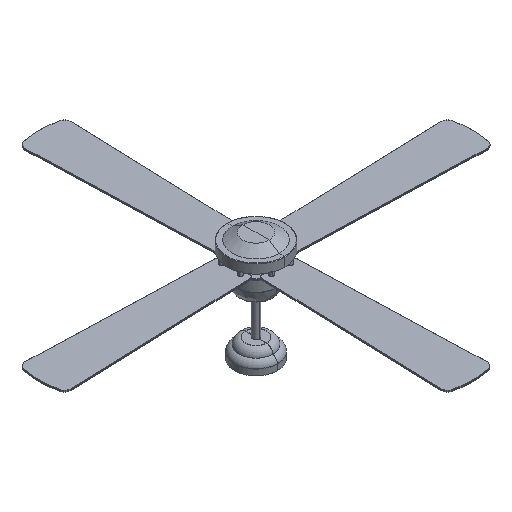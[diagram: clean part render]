
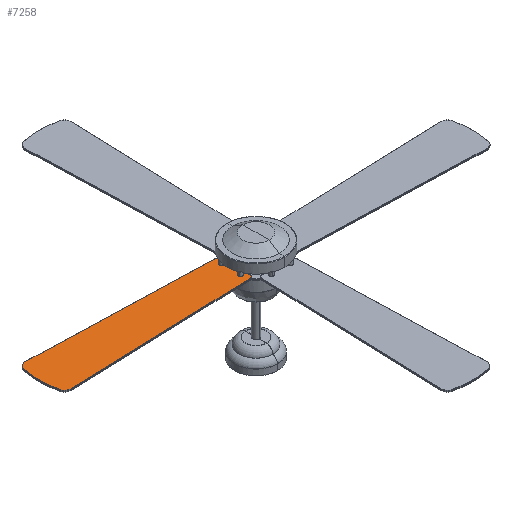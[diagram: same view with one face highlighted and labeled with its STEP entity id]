
A CAD part, isometric view. The second image highlights one B-rep face of the part: STEP entity #7258.
In plain terms, the highlighted planar face has unit normal (0, 0, 1).
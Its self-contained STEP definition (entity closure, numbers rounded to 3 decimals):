
#423=FACE_BOUND('',#1159,.T.);
#424=FACE_BOUND('',#1160,.T.);
#460=PLANE('',#7810);
#670=FACE_OUTER_BOUND('',#1158,.T.);
#1158=EDGE_LOOP('',(#4875,#4876,#4877,#4878,#4879,#4880,#4881,#4882));
#1159=EDGE_LOOP('',(#4883,#4884));
#1160=EDGE_LOOP('',(#4885,#4886));
#1664=CIRCLE('',#7779,3.25);
#1666=CIRCLE('',#7782,3.25);
#1668=CIRCLE('',#7785,3.25);
#1670=CIRCLE('',#7788,3.25);
#1672=CIRCLE('',#7791,10.);
#1674=CIRCLE('',#7795,20.);
#1676=CIRCLE('',#7798,250.);
#1678=CIRCLE('',#7801,20.);
#1680=CIRCLE('',#7805,10.);
#1682=CIRCLE('',#7808,75.);
#2101=LINE('',#11016,#2517);
#2107=LINE('',#11040,#2523);
#2517=VECTOR('',#8784,304.8);
#2523=VECTOR('',#8810,304.8);
#2934=VERTEX_POINT('',#10980);
#2936=VERTEX_POINT('',#10984);
#2938=VERTEX_POINT('',#10992);
#2940=VERTEX_POINT('',#10996);
#2942=VERTEX_POINT('',#11004);
#2944=VERTEX_POINT('',#11008);
#2946=VERTEX_POINT('',#11014);
#2948=VERTEX_POINT('',#11020);
#2950=VERTEX_POINT('',#11026);
#2952=VERTEX_POINT('',#11032);
#2954=VERTEX_POINT('',#11038);
#2956=VERTEX_POINT('',#11044);
#3652=EDGE_CURVE('',#2934,#2936,#1664,.T.);
#3654=EDGE_CURVE('',#2936,#2934,#1666,.T.);
#3658=EDGE_CURVE('',#2938,#2940,#1668,.T.);
#3660=EDGE_CURVE('',#2940,#2938,#1670,.T.);
#3664=EDGE_CURVE('',#2942,#2944,#1672,.T.);
#3667=EDGE_CURVE('',#2944,#2946,#2101,.T.);
#3670=EDGE_CURVE('',#2946,#2948,#1674,.T.);
#3673=EDGE_CURVE('',#2948,#2950,#1676,.T.);
#3676=EDGE_CURVE('',#2950,#2952,#1678,.T.);
#3679=EDGE_CURVE('',#2952,#2954,#2107,.T.);
#3682=EDGE_CURVE('',#2954,#2956,#1680,.T.);
#3684=EDGE_CURVE('',#2956,#2942,#1682,.T.);
#4875=ORIENTED_EDGE('',*,*,#3664,.T.);
#4876=ORIENTED_EDGE('',*,*,#3667,.T.);
#4877=ORIENTED_EDGE('',*,*,#3670,.T.);
#4878=ORIENTED_EDGE('',*,*,#3673,.T.);
#4879=ORIENTED_EDGE('',*,*,#3676,.T.);
#4880=ORIENTED_EDGE('',*,*,#3679,.T.);
#4881=ORIENTED_EDGE('',*,*,#3682,.T.);
#4882=ORIENTED_EDGE('',*,*,#3684,.T.);
#4883=ORIENTED_EDGE('',*,*,#3658,.T.);
#4884=ORIENTED_EDGE('',*,*,#3660,.T.);
#4885=ORIENTED_EDGE('',*,*,#3652,.T.);
#4886=ORIENTED_EDGE('',*,*,#3654,.T.);
#7258=ADVANCED_FACE('',(#670,#423,#424),#460,.F.);
#7779=AXIS2_PLACEMENT_3D('',#10986,#8750,#8751);
#7782=AXIS2_PLACEMENT_3D('',#10989,#8756,#8757);
#7785=AXIS2_PLACEMENT_3D('',#10998,#8764,#8765);
#7788=AXIS2_PLACEMENT_3D('',#11001,#8770,#8771);
#7791=AXIS2_PLACEMENT_3D('',#11010,#8778,#8779);
#7795=AXIS2_PLACEMENT_3D('',#11022,#8790,#8791);
#7798=AXIS2_PLACEMENT_3D('',#11028,#8797,#8798);
#7801=AXIS2_PLACEMENT_3D('',#11034,#8804,#8805);
#7805=AXIS2_PLACEMENT_3D('',#11046,#8816,#8817);
#7808=AXIS2_PLACEMENT_3D('',#11049,#8822,#8823);
#7810=AXIS2_PLACEMENT_3D('',#11051,#8826,#8827);
#8750=DIRECTION('center_axis',(0.,0.,
-1.));
#8751=DIRECTION('ref_axis',(0.,-1.,0.));
#8756=DIRECTION('center_axis',(0.,0.,
-1.));
#8757=DIRECTION('ref_axis',(0.,-1.,0.));
#8764=DIRECTION('center_axis',(0.,0.,
-1.));
#8765=DIRECTION('ref_axis',(0.,-1.,0.));
#8770=DIRECTION('center_axis',(0.,0.,
-1.));
#8771=DIRECTION('ref_axis',(0.,-1.,0.));
#8778=DIRECTION('center_axis',(0.,0.,
1.));
#8779=DIRECTION('ref_axis',(0.,-1.,0.));
#8784=DIRECTION('',(-0.999,0.032,0.));
#8790=DIRECTION('center_axis',(0.,0.,
1.));
#8791=DIRECTION('ref_axis',(0.,-1.,0.));
#8797=DIRECTION('center_axis',(0.,0.,
1.));
#8798=DIRECTION('ref_axis',(0.,-1.,0.));
#8804=DIRECTION('center_axis',(0.,0.,
1.));
#8805=DIRECTION('ref_axis',(0.,-1.,0.));
#8810=DIRECTION('',(0.999,0.032,0.));
#8816=DIRECTION('center_axis',(0.,0.,
1.));
#8817=DIRECTION('ref_axis',(0.,-1.,0.));
#8822=DIRECTION('center_axis',(0.,0.,
-1.));
#8823=DIRECTION('ref_axis',(0.,-1.,0.));
#8826=DIRECTION('center_axis',(0.,0.,
-1.));
#8827=DIRECTION('ref_axis',(1.,0.,0.));
#10980=CARTESIAN_POINT('',(-75.821,-25.25,270.4));
#10984=CARTESIAN_POINT('',(-75.821,-31.75,270.4));
#10986=CARTESIAN_POINT('Origin',(-75.821,-28.5,270.4));
#10989=CARTESIAN_POINT('Origin',(-75.821,-28.5,270.4));
#10992=CARTESIAN_POINT('',(-75.821,31.75,270.4));
#10996=CARTESIAN_POINT('',(-75.821,25.25,270.4));
#10998=CARTESIAN_POINT('Origin',(-75.821,28.5,270.4));
#11001=CARTESIAN_POINT('Origin',(-75.821,28.5,270.4));
#11004=CARTESIAN_POINT('',(-61.035,36.901,270.4));
#11008=CARTESIAN_POINT('',(-69.416,51.816,270.4));
#11010=CARTESIAN_POINT('Origin',(-69.741,41.821,270.4));
#11014=CARTESIAN_POINT('',(-628.591,69.989,270.4));
#11016=CARTESIAN_POINT('',(-69.416,51.816,270.4));
#11020=CARTESIAN_POINT('',(-648.762,54.348,270.4));
#11022=CARTESIAN_POINT('Origin',(-629.24,50.,270.4));
#11026=CARTESIAN_POINT('',(-648.762,-54.348,270.4));
#11028=CARTESIAN_POINT('Origin',(-404.741,0.,
270.4));
#11032=CARTESIAN_POINT('',(-628.591,-69.989,270.4));
#11034=CARTESIAN_POINT('Origin',(-629.24,-50.,270.4));
#11038=CARTESIAN_POINT('',(-69.416,-51.816,270.4));
#11040=CARTESIAN_POINT('',(-628.591,-69.989,270.4));
#11044=CARTESIAN_POINT('',(-61.035,-36.901,270.4));
#11046=CARTESIAN_POINT('Origin',(-69.741,-41.821,270.4));
#11049=CARTESIAN_POINT('Origin',(4.259,0.,
270.4));
#11051=CARTESIAN_POINT('Origin',(4.259,-75.,270.4));
